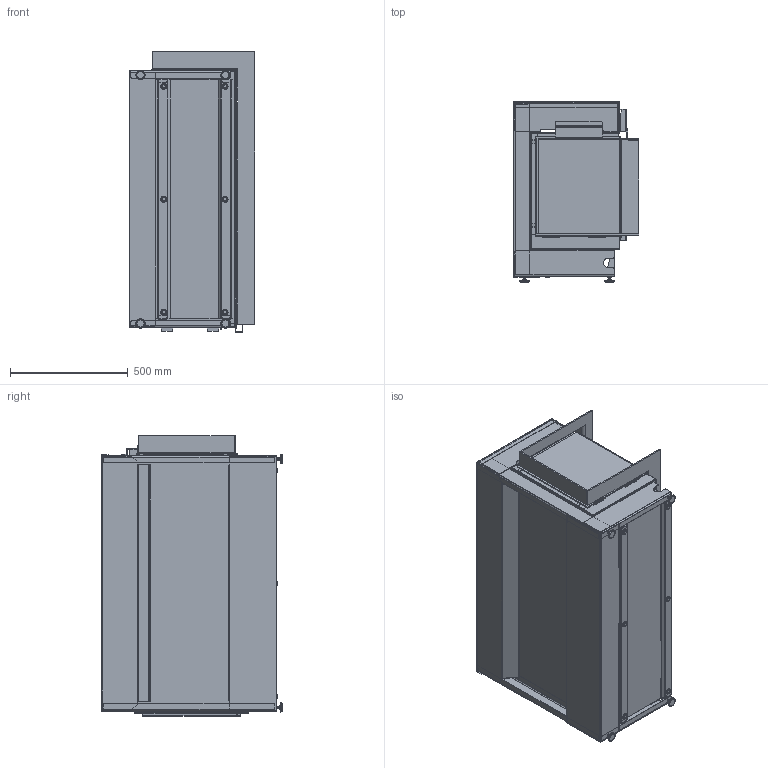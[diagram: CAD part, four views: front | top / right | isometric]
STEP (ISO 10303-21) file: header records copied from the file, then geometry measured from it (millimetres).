
FILE_DESCRIPTION (( 'STEP AP214' ), '1' );
FILE_NAME ('Faber e-MatriX 1050x400 IIL_defeature.STEP', '2022-05-31T11:35:32', ( '' ), ( '' ), 'SwSTEP 2.0', 'SolidWorks 2021', '' );
FILE_SCHEMA (( 'AUTOMOTIVE_DESIGN' ));
Length unit declared in the file: millimetre
Products named in the file (1): Faber e-MatriX 1050x400 IIL_defeature
Bounding box: 533.5 x 765.41 x 1189.5 mm (x, y, z)
Volume: 11704049.7 mm3; surface area: 11376429.1 mm2
Topology: 30 solids, 30 shells, 2056 faces, 5128 edges, 3130 vertices
Faces by surface type: plane 1156, cylinder 686, bspline 138, cone 44, torus 32
Entity records: 75714 total; most frequent: CARTESIAN_POINT 27726, ORIENTED_EDGE 10256, DIRECTION 9504, EDGE_CURVE 5128, LINE 3350, VECTOR 3350, VERTEX_POINT 3130, AXIS2_PLACEMENT_3D 3077
